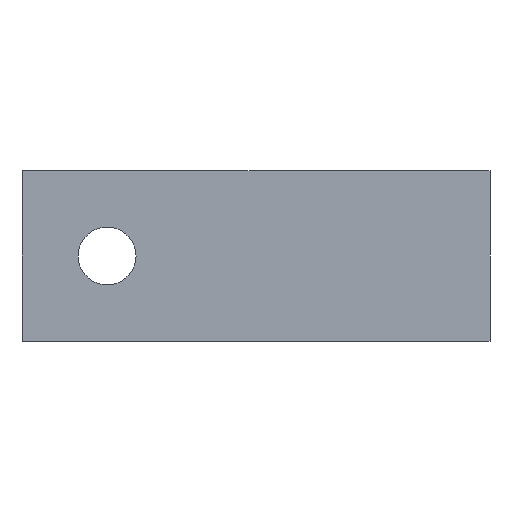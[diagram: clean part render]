
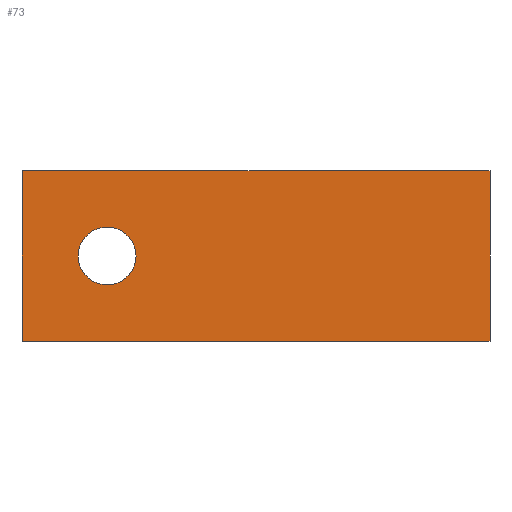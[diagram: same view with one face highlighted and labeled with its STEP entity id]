
A CAD part, front view. The second image highlights one B-rep face of the part: STEP entity #73.
In plain terms, the highlighted planar face has unit normal (0, -1, 0).
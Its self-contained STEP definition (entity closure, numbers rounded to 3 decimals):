
#48=FACE_BOUND('',#99,.T.);
#49=FACE_BOUND('',#100,.T.);
#63=CIRCLE('',#260,3.4);
#73=ADVANCED_FACE('',(#48,#49),#85,.T.);
#85=PLANE('',#261);
#99=EDGE_LOOP('',(#129));
#100=EDGE_LOOP('',(#130,#131,#132,#133));
#129=ORIENTED_EDGE('',*,*,#202,.F.);
#130=ORIENTED_EDGE('',*,*,#203,.F.);
#131=ORIENTED_EDGE('',*,*,#201,.F.);
#132=ORIENTED_EDGE('',*,*,#204,.T.);
#133=ORIENTED_EDGE('',*,*,#205,.T.);
#179=VERTEX_POINT('',#359);
#180=VERTEX_POINT('',#361);
#181=VERTEX_POINT('',#365);
#182=VERTEX_POINT('',#367);
#183=VERTEX_POINT('',#369);
#201=EDGE_CURVE('',#180,#179,#227,.T.);
#202=EDGE_CURVE('',#181,#181,#63,.T.);
#203=EDGE_CURVE('',#179,#182,#228,.T.);
#204=EDGE_CURVE('',#180,#183,#229,.T.);
#205=EDGE_CURVE('',#183,#182,#230,.T.);
#227=LINE('',#362,#246);
#228=LINE('',#366,#247);
#229=LINE('',#368,#248);
#230=LINE('',#370,#249);
#246=VECTOR('',#294,1.);
#247=VECTOR('',#299,1.);
#248=VECTOR('',#300,1.);
#249=VECTOR('',#301,1.);
#260=AXIS2_PLACEMENT_3D('',#364,#297,#298);
#261=AXIS2_PLACEMENT_3D('',#371,#302,#303);
#294=DIRECTION('',(0.,0.,1.));
#297=DIRECTION('',(0.,-1.,0.));
#298=DIRECTION('',(0.,0.,-1.));
#299=DIRECTION('',(1.,0.,0.));
#300=DIRECTION('',(1.,0.,0.));
#301=DIRECTION('',(0.,0.,1.));
#302=DIRECTION('',(0.,-1.,0.));
#303=DIRECTION('',(0.,0.,-1.));
#359=CARTESIAN_POINT('',(0.,0.,0.));
#361=CARTESIAN_POINT('',(0.,0.,-20.));
#362=CARTESIAN_POINT('',(0.,0.,-20.));
#364=CARTESIAN_POINT('',(10.,0.,-10.));
#365=CARTESIAN_POINT('',(10.,0.,-13.4));
#366=CARTESIAN_POINT('',(0.,0.,0.));
#367=CARTESIAN_POINT('',(55.,0.,0.));
#368=CARTESIAN_POINT('',(0.,0.,-20.));
#369=CARTESIAN_POINT('',(55.,0.,-20.));
#370=CARTESIAN_POINT('',(55.,0.,-20.));
#371=CARTESIAN_POINT('',(0.,0.,-20.));
